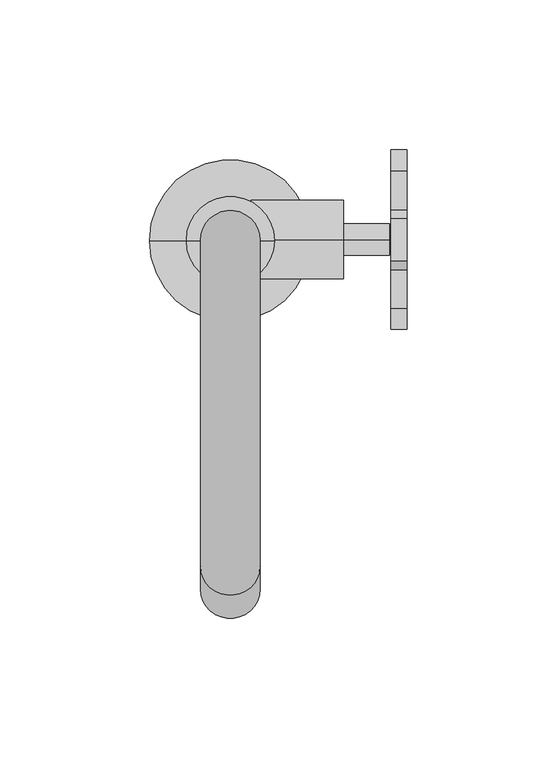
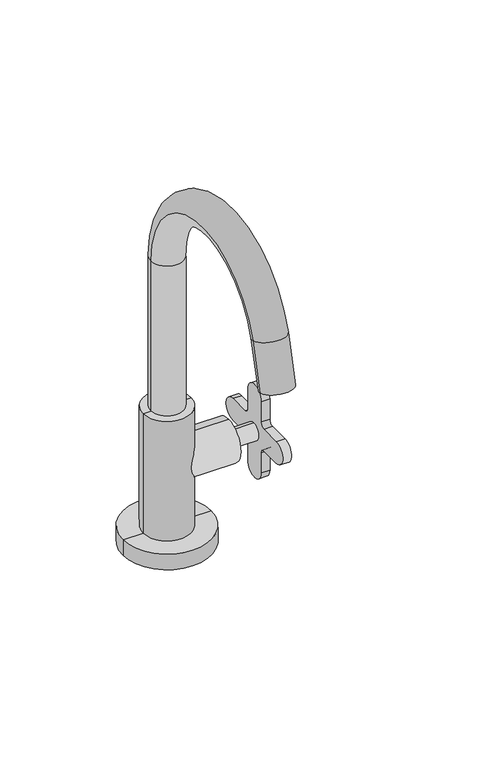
"""IFC4 building model written with IfcOpenShell, lengths in millimetres: flow terminal geometry, Deca Torneira Lavatório : Torneira de Banheiro."""

from ifc_helpers import new_model, si_unit, point, frame, frame_2d, origin, origin_with_axes, place, context, project, spatial, polyline, circle_curve, ellipse_curve, trimmed, segment, composite_curve, outline, extrude, source, transform, mapped, element, save
from ifc_brep_helpers import plane_surface, cylinder_surface, revolved_surface, advanced_brep


def flow_terminal_f470bb56(model_context):
    return source(origin(), model_context, "Body", "SolidModel", [
        extrude(outline(composite_curve([segment(trimmed(circle_curve(frame_2d((0.0, -110.0)), 2.9203633), [point((-2.9203633, -110.0))], [point((2.9203633, -110.0))], False, "CARTESIAN"), True, "CONTINUOUS"), segment(trimmed(circle_curve(frame_2d((0.0, -110.0)), 2.9203633), [point((2.9203633, -110.0))], [point((-2.9203633, -110.0))], False, "CARTESIAN"), True, "CONTINUOUS")], self_intersect=False)), origin_with_axes(), (0.0, 0.0, 1.0), 4.9667439),
        advanced_brep(
        [(-27.0, -110.0, 0.0), (27.0, -110.0, 0.0), (0.0, -110.0, 0.0), (-27.0, -110.0, 10.0), (27.0, -110.0, 10.0), (-14.6940616, -110.0, 10.0), (14.6940616, -110.0, 10.0), (-14.6940616, -110.0, 87.2796787), (14.6940616, -110.0, 87.2796787), (0.0, -110.0, 87.2796787)],
        [
            (0, 1, circle_curve(frame((0.0, -110.0, 0.0), z_axis=(0.0, 0.0, -1.0), x_axis=(1.0, 0.0, 0.0)), 27.0)),
            (1, 2),
            (2, 0),
            (1, 0, circle_curve(frame((0.0, -110.0, 0.0), z_axis=(0.0, 0.0, -1.0), x_axis=(1.0, 0.0, 0.0)), 27.0)),
            (3, 4, circle_curve(frame((0.0, -110.0, 10.0), z_axis=(0.0, 0.0, -1.0), x_axis=(1.0, 0.0, 0.0)), 27.0)),
            (4, 1),
            (0, 3),
            (4, 3, circle_curve(frame((0.0, -110.0, 10.0), z_axis=(0.0, 0.0, -1.0), x_axis=(1.0, 0.0, 0.0)), 27.0)),
            (5, 6, circle_curve(frame((0.0, -110.0, 10.0), z_axis=(0.0, 0.0, -1.0), x_axis=(1.0, 0.0, 0.0)), 14.6940616)),
            (6, 4),
            (3, 5),
            (6, 5, circle_curve(frame((0.0, -110.0, 10.0), z_axis=(0.0, 0.0, -1.0), x_axis=(1.0, 0.0, 0.0)), 14.6940616)),
            (7, 8, circle_curve(frame((0.0, -110.0, 87.2796787), z_axis=(0.0, 0.0, -1.0), x_axis=(1.0, 0.0, 0.0)), 14.6940616)),
            (8, 6),
            (5, 7),
            (8, 7, circle_curve(frame((0.0, -110.0, 87.2796787), z_axis=(0.0, 0.0, -1.0), x_axis=(1.0, 0.0, 0.0)), 14.6940616)),
            (9, 8),
            (7, 9),
        ],
        [
            plane_surface(frame((0.0, -110.0, 0.0), z_axis=(0.0, 0.0, -1.0), x_axis=(1.0, 0.0, 0.0))),
            cylinder_surface(frame((0.0, -110.0, 78.0150545), z_axis=(0.0, 0.0, 1.0), x_axis=(1.0, 0.0, 0.0)), 27.0),
            plane_surface(frame((0.0, -110.0, 10.0), z_axis=(0.0, 0.0, 1.0), x_axis=(1.0, 0.0, 0.0))),
            cylinder_surface(frame((0.0, -110.0, 78.0150545), z_axis=(0.0, 0.0, 1.0), x_axis=(1.0, 0.0, 0.0)), 14.6940616),
            plane_surface(frame((0.0, -110.0, 87.2796787), z_axis=(0.0, 0.0, 1.0), x_axis=(1.0, 0.0, 0.0))),
        ],
        [
            (0, [[1, 2, 3]]),
            (0, [[4, -3, -2]]),
            (1, [[5, 6, -1, 7]]),
            (1, [[8, -7, -4, -6]]),
            (2, [[9, 10, -5, 11]]),
            (2, [[12, -11, -8, -10]]),
            (3, [[13, 14, -9, 15]]),
            (3, [[16, -15, -12, -14]]),
            (4, [[17, -13, 18]]),
            (4, [[-18, -16, -17]]),
        ],
    ),
        advanced_brep(
        [(-10.0, -110.0, 87.0), (10.0, -110.0, 87.0), (-10.0, -110.0, 184.3542992), (10.0, -110.0, 184.3542992), (10.0, -218.7673828, 198.6737968), (-10.0, -218.7673828, 198.6737968), (-10.0, -226.5774418, 169.52626), (10.0, -226.5774418, 169.52626)],
        [
            (0, 1, circle_curve(frame((0.0, -110.0, 87.0), z_axis=(0.0, 0.0, -1.0), x_axis=(1.0, 0.0, 0.0)), 10.0)),
            (1, 0, circle_curve(frame((0.0, -110.0, 87.0), z_axis=(0.0, 0.0, -1.0), x_axis=(1.0, 0.0, 0.0)), 10.0)),
            (0, 2),
            (2, 3, circle_curve(frame((0.0, -110.0, 184.3542992), z_axis=(0.0, 0.0, -1.0), x_axis=(1.0, 0.0, 0.0)), 10.0)),
            (3, 1),
            (3, 2, circle_curve(frame((0.0, -110.0, 184.3542992), z_axis=(0.0, 0.0, -1.0), x_axis=(1.0, 0.0, 0.0)), 10.0)),
            (4, 3, circle_curve(frame((10.0, -165.3262902, 184.3542992), z_axis=(-1.0, 0.0, 0.0), x_axis=(0.0, 1.0, 0.0)), 55.3262902)),
            (2, 5, circle_curve(frame((-10.0, -165.3262902, 184.3542992), z_axis=(1.0, 0.0, 0.0), x_axis=(0.0, 1.0, 0.0)), 55.3262902)),
            (5, 4, circle_curve(frame((0.0, -218.7673828, 198.6737968), z_axis=(0.0, 0.25881904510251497, 0.9659258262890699), x_axis=(1.0, 0.0, 0.0)), 10.0)),
            (4, 5, circle_curve(frame((0.0, -218.7673828, 198.6737968), z_axis=(0.0, 0.2588190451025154, 0.9659258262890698), x_axis=(1.0, 0.0, 0.0)), 10.0)),
            (6, 7, circle_curve(frame((0.0, -226.5774418, 169.52626), z_axis=(0.0, -0.2588190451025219, -0.965925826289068), x_axis=(1.0, 0.0, 0.0)), 10.0)),
            (7, 6, circle_curve(frame((0.0, -226.5774418, 169.52626), z_axis=(0.0, -0.2588190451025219, -0.965925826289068), x_axis=(1.0, 0.0, 0.0)), 10.0)),
            (5, 6),
            (7, 4),
        ],
        [
            plane_surface(frame((0.0, -110.0, 87.0), z_axis=(0.0, 0.0, -1.0), x_axis=(1.0, 0.0, 0.0))),
            cylinder_surface(frame((0.0, -110.0, 87.0), z_axis=(0.0, 0.0, -1.0), x_axis=(1.0, 0.0, 0.0)), 10.0),
            revolved_surface(trimmed(ellipse_curve(frame((0.0, -110.0, 184.3542992), z_axis=(0.0, 0.0, -1.0), x_axis=(1.0, 0.0, 0.0)), 10.0, 10.0), [point((-10.0, -110.0, 184.3542992))], [point((10.0, -110.0, 184.3542992))], True, "CARTESIAN"), (0.0, -165.3262902, 184.3542992), (1.0, 0.0, 0.0)),
            revolved_surface(trimmed(ellipse_curve(frame((0.0, -110.0, 184.3542992), z_axis=(0.0, 0.0, -1.0), x_axis=(1.0, 0.0, 0.0)), 10.0, 10.0), [point((10.0, -110.0, 184.3542992))], [point((-10.0, -110.0, 184.3542992))], True, "CARTESIAN"), (0.0, -165.3262902, 184.3542992), (1.0, 0.0, 0.0)),
            plane_surface(frame((0.0, -226.5774418, 169.52626), z_axis=(0.0, -0.2588190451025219, -0.965925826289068), x_axis=(1.0, 0.0, 0.0))),
            cylinder_surface(frame((0.0, -218.7673828, 198.6737968), z_axis=(0.0, 0.2588190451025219, 0.965925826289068), x_axis=(1.0, 0.0, 0.0)), 10.0),
        ],
        [
            (0, [[1, 2]]),
            (1, [[-1, 3, 4, 5]]),
            (1, [[-2, -5, 6, -3]]),
            (2, [[7, -4, 8, 9]]),
            (3, [[-8, -6, -7, 10]]),
            (4, [[11, 12]]),
            (5, [[-9, 13, -12, 14]]),
            (5, [[-10, -14, -11, -13]]),
        ],
    ),
        extrude(outline(composite_curve([segment(trimmed(circle_curve(frame_2d((-99.687498, 62.0)), 3.0), [point((-102.687498, 62.0))], [point((-99.687498, 59.0))], True, "CARTESIAN"), True, "CONTINUOUS"), segment(polyline([(-99.687498, 59.0), (-86.687498, 59.0)]), True, "CONTINUOUS"), segment(trimmed(circle_curve(frame_2d((-86.687498, 52.0)), 7.0), [point((-86.687498, 59.0))], [point((-86.687498, 45.0))], False, "CARTESIAN"), True, "CONTINUOUS"), segment(polyline([(-86.687498, 45.0), (-99.687498, 45.0)]), True, "CONTINUOUS"), segment(trimmed(circle_curve(frame_2d((-99.687498, 42.0)), 3.0), [point((-99.687498, 45.0))], [point((-102.687498, 42.0))], True, "CARTESIAN"), True, "CONTINUOUS"), segment(polyline([(-102.687498, 42.0), (-102.687498, 29.0)]), True, "CONTINUOUS"), segment(trimmed(circle_curve(frame_2d((-109.687498, 29.0)), 7.0), [point((-102.687498, 29.0))], [point((-116.687498, 29.0))], False, "CARTESIAN"), True, "CONTINUOUS"), segment(polyline([(-116.687498, 29.0), (-116.687498, 42.0)]), True, "CONTINUOUS"), segment(trimmed(circle_curve(frame_2d((-119.687498, 42.0)), 3.0), [point((-116.687498, 42.0))], [point((-119.687498, 45.0))], True, "CARTESIAN"), True, "CONTINUOUS"), segment(polyline([(-119.687498, 45.0), (-132.687498, 45.0)]), True, "CONTINUOUS"), segment(trimmed(circle_curve(frame_2d((-132.687498, 52.0)), 7.0), [point((-132.687498, 45.0))], [point((-132.687498, 59.0))], False, "CARTESIAN"), True, "CONTINUOUS"), segment(polyline([(-132.687498, 59.0), (-119.687498, 59.0)]), True, "CONTINUOUS"), segment(trimmed(circle_curve(frame_2d((-119.687498, 62.0)), 3.0), [point((-119.687498, 59.0))], [point((-116.687498, 62.0))], True, "CARTESIAN"), True, "CONTINUOUS"), segment(polyline([(-116.687498, 62.0), (-116.687498, 75.0)]), True, "CONTINUOUS"), segment(trimmed(circle_curve(frame_2d((-109.687498, 75.0)), 7.0), [point((-116.687498, 75.0))], [point((-102.687498, 75.0))], False, "CARTESIAN"), True, "CONTINUOUS"), segment(polyline([(-102.687498, 75.0), (-102.687498, 62.0)]), True, "CONTINUOUS")], self_intersect=False)), frame((53.7445908, 0.0, 0.0), z_axis=(1.0, 0.0, 0.0), x_axis=(0.0, 1.0, 0.0)), (0.0, 0.0, 1.0), 5.3141581),
        advanced_brep(
        [(6.8764178, -109.6875, 65.12), (6.8764178, -109.6875, 38.88), (6.8764178, -109.6875, 52.0), (37.8275265, -109.6875, 65.12), (37.8275265, -109.6875, 38.88), (37.8275265, -109.6875, 57.3125), (37.8275265, -109.6875, 46.6875), (53.2727199, -109.6875, 57.3125), (53.2727199, -109.6875, 46.6875), (53.2727199, -109.6875, 52.0)],
        [
            (0, 1, circle_curve(frame((6.8764178, -109.6875, 52.0), z_axis=(-1.0, 0.0, 0.0), x_axis=(0.0, 0.0, -1.0)), 13.12)),
            (1, 2),
            (2, 0),
            (1, 0, circle_curve(frame((6.8764178, -109.6875, 52.0), z_axis=(-1.0, 0.0, 0.0), x_axis=(0.0, 0.0, -1.0)), 13.12)),
            (3, 4, circle_curve(frame((37.8275265, -109.6875, 52.0), z_axis=(-1.0, 0.0, 0.0), x_axis=(0.0, 0.0, -1.0)), 13.12)),
            (4, 1),
            (0, 3),
            (4, 3, circle_curve(frame((37.8275265, -109.6875, 52.0), z_axis=(-1.0, 0.0, 0.0), x_axis=(0.0, 0.0, -1.0)), 13.12)),
            (5, 6, circle_curve(frame((37.8275265, -109.6875, 52.0), z_axis=(-1.0, 0.0, 0.0), x_axis=(0.0, 0.0, -1.0)), 5.3125)),
            (6, 4),
            (3, 5),
            (6, 5, circle_curve(frame((37.8275265, -109.6875, 52.0), z_axis=(-1.0, 0.0, 0.0), x_axis=(0.0, 0.0, -1.0)), 5.3125)),
            (7, 8, circle_curve(frame((53.2727199, -109.6875, 52.0), z_axis=(-1.0, 0.0, 0.0), x_axis=(0.0, 0.0, -1.0)), 5.3125)),
            (8, 6),
            (5, 7),
            (8, 7, circle_curve(frame((53.2727199, -109.6875, 52.0), z_axis=(-1.0, 0.0, 0.0), x_axis=(0.0, 0.0, -1.0)), 5.3125)),
            (9, 8),
            (7, 9),
        ],
        [
            plane_surface(frame((6.8764178, -109.6875, 52.0), z_axis=(-1.0, 0.0, 0.0), x_axis=(0.0, 0.0, -1.0))),
            cylinder_surface(frame((8.9170759, -109.6875, 52.0), z_axis=(1.0, 0.0, 0.0), x_axis=(0.0, 0.0, -1.0)), 13.12),
            plane_surface(frame((37.8275265, -109.6875, 52.0), z_axis=(1.0, 0.0, 0.0), x_axis=(0.0, 0.0, -1.0))),
            cylinder_surface(frame((8.9170759, -109.6875, 52.0), z_axis=(1.0, 0.0, 0.0), x_axis=(0.0, 0.0, -1.0)), 5.3125),
            plane_surface(frame((53.2727199, -109.6875, 52.0), z_axis=(1.0, 0.0, 0.0), x_axis=(0.0, 0.0, -1.0))),
        ],
        [
            (0, [[1, 2, 3]]),
            (0, [[4, -3, -2]]),
            (1, [[5, 6, -1, 7]]),
            (1, [[8, -7, -4, -6]]),
            (2, [[9, 10, -5, 11]]),
            (2, [[12, -11, -8, -10]]),
            (3, [[13, 14, -9, 15]]),
            (3, [[16, -15, -12, -14]]),
            (4, [[17, -13, 18]]),
            (4, [[-18, -16, -17]]),
        ],
    ),
    ])


if __name__ == "__main__":
    model = new_model("IFC4")
    model_context = context("Model", 3, world=origin())
    ifc_project = project(units=[si_unit("LENGTHUNIT", "METRE", prefix="MILLI")], contexts=[model_context])
    site = spatial("IfcSite", under=ifc_project)
    building = spatial("IfcBuilding", under=site)
    placement = place(None, origin())
    flow_terminal_shape = flow_terminal_f470bb56(model_context)
    element("IfcFlowTerminal", 1, ObjectType="Deca Torneira Lavatório : Torneira de Banheiro", at=placement, inside=building, context=model_context, shape_type="MappedRepresentation", body=[
        mapped(flow_terminal_shape, transform((0.0, 0.0, 0.0), x_axis=(1.0, 0.0, 0.0), y_axis=(0.0, 1.0, 0.0), z_axis=(0.0, 0.0, 1.0))),
    ])
    save(model, "model.ifc")
